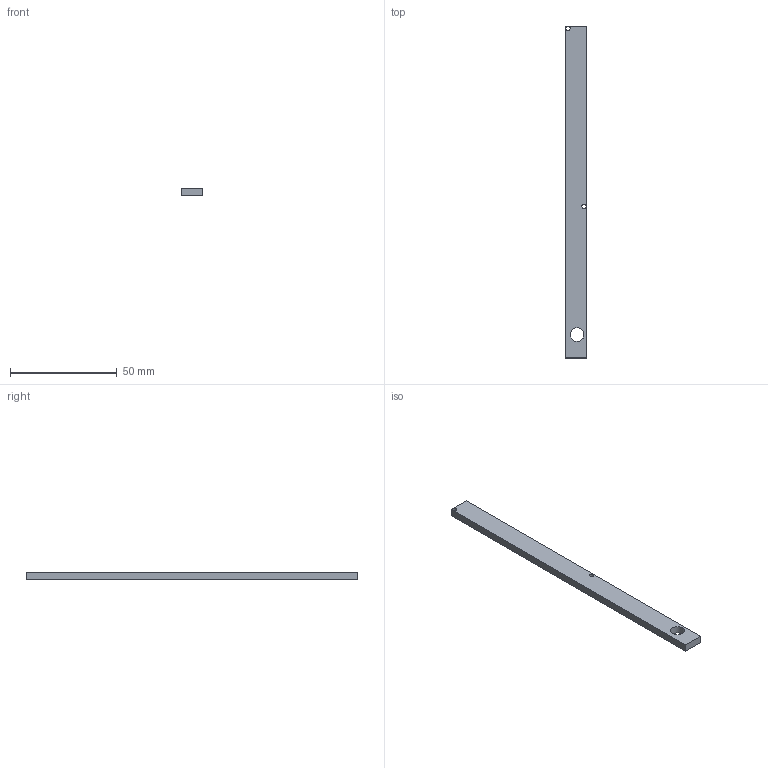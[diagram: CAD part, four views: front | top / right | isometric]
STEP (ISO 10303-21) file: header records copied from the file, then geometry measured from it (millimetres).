
FILE_DESCRIPTION(/* description */ ('STEP AP242 Edition 2','CAx-IF Rec.Pracs.---Representation and Presentation of Product Manufacturing Information (PMI)---4.0---2014-10-13','CAx-IF Rec.Pracs.---3D Tessellated Geometry---0.4---2014-09-14','2;1','CAx-IF Rec.Pracs.---User Defined Attributes---1.5---2016-08-15'),/* implementation_level */ '2;1');
FILE_NAME(/* name */ 'Arm Parts - Arm2(Other Side)',/* time_stamp */ '2026-04-22T00:04:13Z',/* author */ (''),/* organization */ (''),/* preprocessor_version */ 'ST-DEVELOPER v20',/* originating_system */ 'ONSHAPE BY PTC INC, 1.213',/* authorisation */ ' ');
FILE_SCHEMA (('AP242_MANAGED_MODEL_BASED_3D_ENGINEERING_MIM_LF { 1 0 10303 442 3 1 4 }'));
Length unit declared in the file: metre
Products named in the file (1): Arm2(Other Side)
Bounding box: 10 x 155.81 x 3.6 mm (x, y, z)
Volume: 5467 mm3; surface area: 4349.8 mm2
Topology: 1 solids, 1 shells, 9 faces, 22 edges, 15 vertices
Faces by surface type: plane 6, cylinder 3
Full cylindrical faces by diameter (mm): 2 x2, 6.5 x1
Entity records: 280 total; most frequent: DIRECTION 44, CARTESIAN_POINT 42, ORIENTED_EDGE 36, EDGE_CURVE 18, EDGE_LOOP 18, FACE_BOUND 18, AXIS2_PLACEMENT_3D 16, VERTEX_POINT 14
